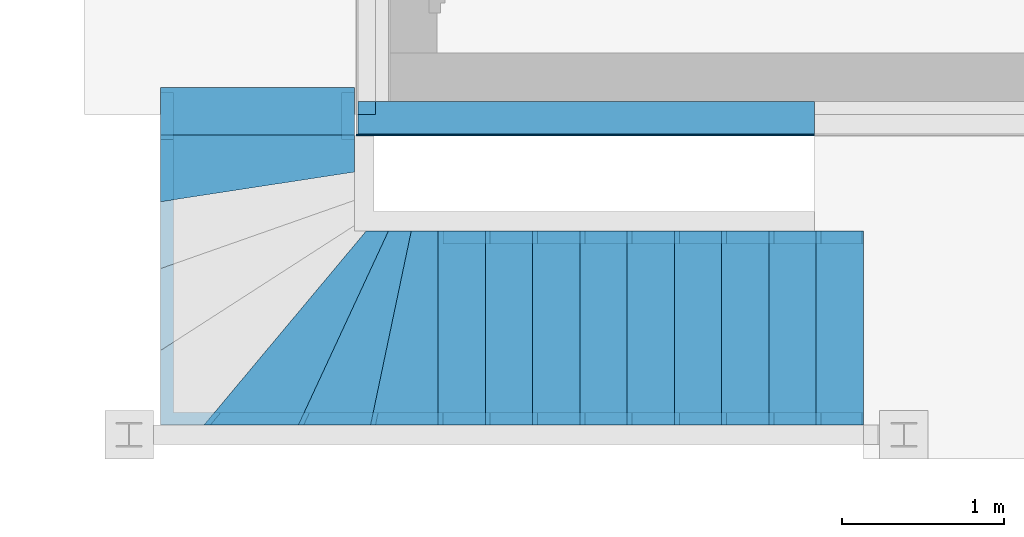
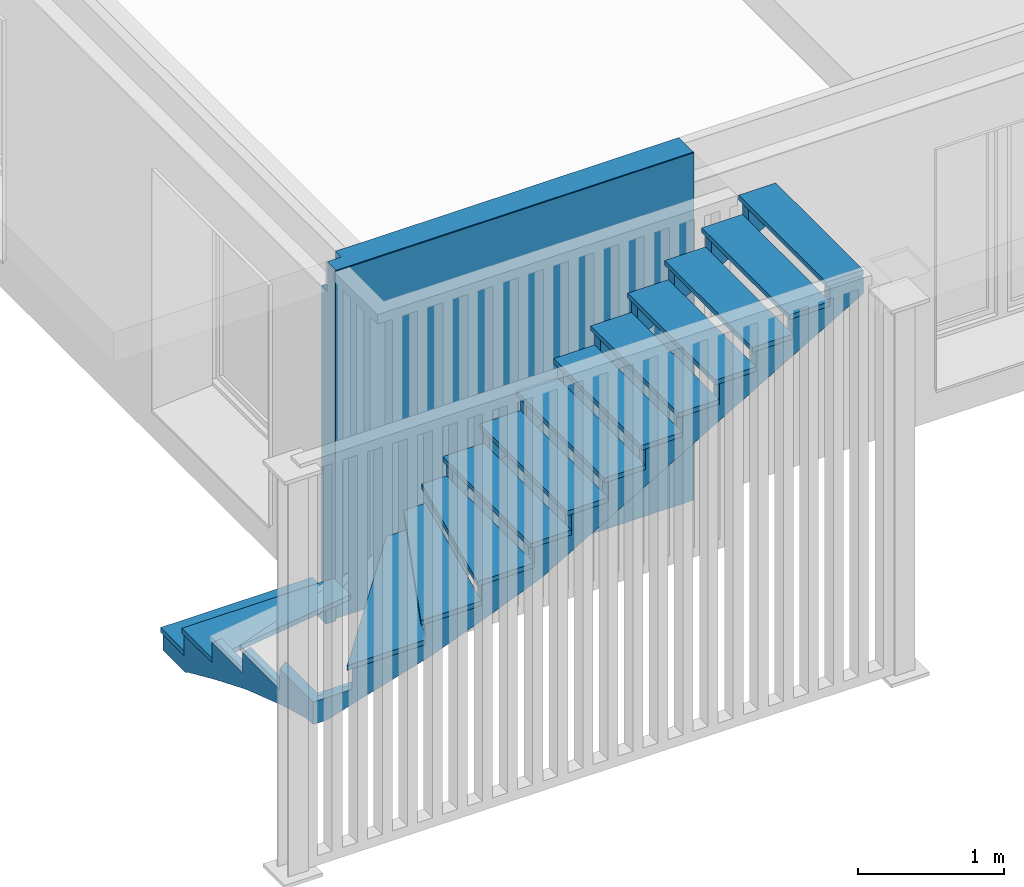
# One storey, part 11 of 20: 17 building element parts, 2 elements without a shape of their own.
"""IFC4 building model written with IfcOpenShell, lengths in millimetres."""

import ifcopenshell
import ifcopenshell.guid

model = None  # the IFC model being written
_history = None  # IfcOwnerHistory: only IFC2X3 demands one
_inside = {}  # id of a spatial element -> (the spatial element, [elements in it])
_under = {}  # id of a project, library or spatial element -> (it, [spatial elements below it])
_declared = {}  # id of a project -> (the project, [libraries it declares])
_typed = {}  # id of a type object -> (the type object, [elements of that type])
_made_of = {}  # id of a material, layer set ... -> (it, [elements and type objects made of it])


def new_model(schema):
    """Start an empty IFC model of exactly this schema.

    Asked for "IFC4X3", IfcOpenShell would pick the latest addendum, in which some entities
    have other attributes; the version numbers below select the first issue.
    IFC2X3 requires an IfcOwnerHistory on every rooted entity: one is made here for all.
    """
    global model, _history
    if schema == "IFC4X3":
        model = ifcopenshell.file(schema_version=(4, 3, 0, 0))
    else:
        model = ifcopenshell.file(schema=schema)
    _inside.clear()
    _under.clear()
    _declared.clear()
    _typed.clear()
    _made_of.clear()
    _history = None
    if model.schema == "IFC2X3":
        org = make("IfcOrganization", Name="unknown")
        user = make(
            "IfcPersonAndOrganization",
            ThePerson=make("IfcPerson", FamilyName="unknown"),
            TheOrganization=org,
        )
        app = make(
            "IfcApplication",
            ApplicationDeveloper=org,
            Version="unknown",
            ApplicationFullName="unknown",
            ApplicationIdentifier="unknown",
        )
        _history = make(
            "IfcOwnerHistory",
            OwningUser=user,
            OwningApplication=app,
            ChangeAction="ADDED",
            CreationDate=0,
        )
    return model


def make(cls, **values):
    """One entity of the class cls with the attributes given. An attribute that is None is left unset."""
    return model.create_entity(
        cls, **{name: value for name, value in values.items() if value is not None}
    )


def entity(cls, *values):
    """Any entity or typed value of the class cls, its attributes in the order of the schema. None: left unset."""
    e = model.create_entity(cls)
    for i, value in enumerate(values):
        if value is not None:
            e[i] = value
    return e


def rooted(cls, **values):
    """An entity with a GlobalId (a new one), such as an element, a storey or a relation."""
    return make(cls, GlobalId=ifcopenshell.guid.new(), OwnerHistory=_history, **values)


def si_unit(unit_type, name, prefix=None):
    """IfcSIUnit, for example si_unit("LENGTHUNIT", "METRE", prefix="MILLI")."""
    return make("IfcSIUnit", UnitType=unit_type, Prefix=prefix, Name=name)


def converted_unit(unit_type, name, factor, base, dimensions=None, offset=None):
    """IfcConversionBasedUnit, such as the inch: factor (a typed value) times the base unit."""
    return make(
        "IfcConversionBasedUnit"
        if offset is None
        else "IfcConversionBasedUnitWithOffset",
        ConversionOffset=offset,
        Dimensions=None
        if dimensions is None
        else entity("IfcDimensionalExponents", *dimensions),
        UnitType=unit_type,
        Name=name,
        ConversionFactor=make(
            "IfcMeasureWithUnit", ValueComponent=factor, UnitComponent=base
        ),
    )


def derived_unit(unit_type, elements):
    """IfcDerivedUnit: a product of units, each with its exponent."""
    return make(
        "IfcDerivedUnit",
        Elements=[
            make("IfcDerivedUnitElement", Unit=unit, Exponent=power)
            for unit, power in elements
        ],
        UnitType=unit_type,
    )


def assignment(units):
    """IfcUnitAssignment: the units of a project."""
    return None if units is None else make("IfcUnitAssignment", Units=units)


def point(xyz):
    """IfcCartesianPoint."""
    return None if xyz is None else make("IfcCartesianPoint", Coordinates=xyz)


def direction(xyz):
    """IfcDirection."""
    return None if xyz is None else make("IfcDirection", DirectionRatios=xyz)


def frame(location, z_axis=None, x_axis=None):
    """IfcAxis2Placement3D, a coordinate frame: its origin and axes. An axis left out is left unset."""
    return make(
        "IfcAxis2Placement3D",
        Location=point(location),
        Axis=direction(z_axis),
        RefDirection=direction(x_axis),
    )


def origin_with_axes():
    """The frame at (0, 0, 0) with the z axis (0, 0, 1) and the x axis (1, 0, 0) written out."""
    return frame((0.0, 0.0, 0.0), z_axis=(0.0, 0.0, 1.0), x_axis=(1.0, 0.0, 0.0))


def place(relative_to, where):
    """IfcLocalPlacement: puts the frame where relative to a parent placement (None: the world)."""
    return make(
        "IfcLocalPlacement", PlacementRelTo=relative_to, RelativePlacement=where
    )


def context(
    kind, dimensions, precision=None, world=None, true_north=None, identifier=None
):
    """IfcGeometricRepresentationContext, for example the 3D "Model" context."""
    return make(
        "IfcGeometricRepresentationContext",
        ContextIdentifier=identifier,
        ContextType=kind,
        CoordinateSpaceDimension=dimensions,
        Precision=precision,
        WorldCoordinateSystem=world,
        TrueNorth=true_north,
    )


def subcontext(parent, identifier, kind, view, scale=None):
    """IfcGeometricRepresentationSubContext, for example "Body" below "Model"."""
    return make(
        "IfcGeometricRepresentationSubContext",
        ContextIdentifier=identifier,
        ContextType=kind,
        ParentContext=parent,
        TargetScale=scale,
        TargetView=view,
    )


def project(units=None, contexts=None):
    """IfcProject with its units and contexts."""
    return rooted(
        "IfcProject",
        Name="project",
        RepresentationContexts=contexts,
        UnitsInContext=assignment(units),
    )


def spatial(cls, under=None, at=None, **own):
    """A site, building, storey or space (cls), placed at a placement, below another one or the project."""
    s = rooted(cls, ObjectPlacement=at, **own)
    if under is not None:
        _under.setdefault(under.id(), (under, []))[1].append(s)
    return s


def point_list(points):
    """IfcCartesianPointList2D or 3D."""
    cls = (
        "IfcCartesianPointList2D" if len(points[0]) == 2 else "IfcCartesianPointList3D"
    )
    return make(cls, CoordList=points)


def polygons(points, faces, closed=None, point_numbers=None):
    """IfcPolygonalFaceSet: a face is its outer loop, then its inner loops; points numbered from 1."""
    made = []
    for loops in faces:
        if len(loops) == 1:
            made.append(make("IfcIndexedPolygonalFace", CoordIndex=loops[0]))
        else:
            made.append(
                make(
                    "IfcIndexedPolygonalFaceWithVoids",
                    CoordIndex=loops[0],
                    InnerCoordIndices=loops[1:],
                )
            )
    return make(
        "IfcPolygonalFaceSet",
        Coordinates=point_list(points),
        Closed=closed,
        Faces=made,
        PnIndex=point_numbers,
    )


def shape(context_of_items, identifier, shape_type, items):
    """IfcShapeRepresentation: the items that make up one representation, for example the "Body"."""
    return make(
        "IfcShapeRepresentation",
        ContextOfItems=context_of_items,
        RepresentationIdentifier=identifier,
        RepresentationType=shape_type,
        Items=items,
    )


def material(Name=None, Category=None):
    """IfcMaterial."""
    return make("IfcMaterial", Name=Name, Category=Category)


def made_of(thing, what):
    """Note that an element or type object is made of a material, layer set ...; save() writes the relation."""
    if what is not None:
        _made_of.setdefault(what.id(), (what, []))[1].append(thing)
    return thing


def type_object(cls, material=None, **own):
    """A type object (cls), such as IfcWallType, which elements share."""
    return made_of(rooted(cls, **own), material)


def element(
    cls,
    number,
    at=None,
    inside=None,
    cuts=None,
    type_object=None,
    material=None,
    context=None,
    identifier="Body",
    shape_type=None,
    held_by="IfcProductDefinitionShape",
    body=None,
    shapes=None,
    **own,
):
    """One element of the class cls, such as IfcWall. Its Tag is "e" and its number.

    at: its placement. inside: the storey or other place that contains it. cuts: it is an
    opening in that element (IfcRelVoidsElement). A single representation is given by context,
    identifier, shape_type and body (its items); several are given by shapes. held_by: the class
    of the entity that holds the representations. save() writes the other relations.
    """
    e = rooted(cls, Tag="e%d" % number, ObjectPlacement=at, **own)
    if body is not None:
        shapes = [shape(context, identifier, shape_type, body)]
    if shapes is not None:
        e.Representation = make(held_by, Representations=shapes)
    if inside is not None:
        _inside.setdefault(inside.id(), (inside, []))[1].append(e)
    if cuts is not None:
        rooted(
            "IfcRelVoidsElement", RelatingBuildingElement=cuts, RelatedOpeningElement=e
        )
    if type_object is not None:
        _typed.setdefault(type_object.id(), (type_object, []))[1].append(e)
    return made_of(e, material)


def aggregate(whole, parts):
    """IfcRelAggregates: a whole, such as a stair, and the parts it consists of."""
    return rooted("IfcRelAggregates", RelatingObject=whole, RelatedObjects=parts)


def save(model, path):
    """Write the relations noted so far, then the file.

    IfcRelAggregates (storeys below a building ...), IfcRelContainedInSpatialStructure (elements
    in a storey), IfcRelDefinesByType, IfcRelAssociatesMaterial and IfcRelDeclares: one each for
    every whole, place, type object, material and project.
    """
    for whole, parts in _under.values():
        aggregate(whole, parts)
    for where, things in _inside.values():
        rooted(
            "IfcRelContainedInSpatialStructure",
            RelatedElements=things,
            RelatingStructure=where,
        )
    for kind, things in _typed.values():
        rooted("IfcRelDefinesByType", RelatedObjects=things, RelatingType=kind)
    for what, things in _made_of.values():
        rooted("IfcRelAssociatesMaterial", RelatedObjects=things, RelatingMaterial=what)
    for by, libraries in _declared.values():
        rooted("IfcRelDeclares", RelatingContext=by, RelatedDefinitions=libraries)
    model.write(path)


model = new_model("IFC4")

# Units and contexts
model_context = context("Model", 3, precision=0.01, world=origin_with_axes(), true_north=direction((0.0, 1.0)))
body_context = subcontext(model_context, "Body", "Model", "MODEL_VIEW")
ifc_project = project(units=[si_unit("LENGTHUNIT", "METRE", prefix="MILLI"), si_unit("AREAUNIT", "SQUARE_METRE"), si_unit("VOLUMEUNIT", "CUBIC_METRE"), converted_unit("PLANEANGLEUNIT", "DEGREE", entity("IfcPlaneAngleMeasure", 0.0174532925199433), si_unit("PLANEANGLEUNIT", "RADIAN"), dimensions=[0, 0, 0, 0, 0, 0, 0]), converted_unit("TIMEUNIT", "Year", entity("IfcTimeMeasure", 31557600.0), si_unit("TIMEUNIT", "SECOND"), dimensions=[0, 0, 1, 0, 0, 0, 0]), si_unit("MASSUNIT", "GRAM", prefix="KILO"), si_unit("THERMODYNAMICTEMPERATUREUNIT", "DEGREE_CELSIUS"), si_unit("LUMINOUSINTENSITYUNIT", "LUMEN"), si_unit("ENERGYUNIT", "JOULE", prefix="MEGA"), derived_unit("THERMALCONDUCTANCEUNIT", [(si_unit("POWERUNIT", "WATT"), 1), (si_unit("LENGTHUNIT", "METRE"), -1), (si_unit("THERMODYNAMICTEMPERATUREUNIT", "KELVIN"), -1)]), derived_unit("SPECIFICHEATCAPACITYUNIT", [(si_unit("ENERGYUNIT", "JOULE"), 1), (si_unit("MASSUNIT", "GRAM", prefix="KILO"), -1), (si_unit("THERMODYNAMICTEMPERATUREUNIT", "KELVIN"), -1)]), derived_unit("MASSDENSITYUNIT", [(si_unit("MASSUNIT", "GRAM", prefix="KILO"), 1), (si_unit("VOLUMEUNIT", "CUBIC_METRE"), -1)])], contexts=[model_context])

# Site, building, storey
site_placement = place(None, origin_with_axes())
site = spatial("IfcSite", under=ifc_project, at=site_placement, Name="Gelände", CompositionType="ELEMENT")
building_placement = place(site_placement, origin_with_axes())
building = spatial("IfcBuilding", under=site, at=building_placement, Name="Gebäude", CompositionType="ELEMENT")
storey_placement = place(building_placement, frame((0.0, 0.0, 5.198845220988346e-05), z_axis=(0.0, 0.0, 1.0), x_axis=(1.0, 0.0, 0.0)))
storey = spatial("IfcBuildingStorey", under=building, at=storey_placement, Name="EG", CompositionType="ELEMENT", Elevation=0.0)

# Curtain wall, building element parts
curtain_wall_type = type_object("IfcCurtainWallType", Name="Fassade Typ 01 - Kompaktfassade 210", PredefinedType="NOTDEFINED")
curtain_wall_placement = place(storey_placement, frame((-7060.766624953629, 22947.59674077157, 0.0), z_axis=(0.0, 0.0, 1.0), x_axis=(1.0, 0.0, 0.0)))
curtain_wall = element("IfcCurtainWall", 1, at=curtain_wall_placement, inside=storey, type_object=curtain_wall_type, Name="Wand-014", PredefinedType="NOTDEFINED")
ifc_material_1 = material(Name="Zementputz Aussen")
building_element_part_1_placement = place(curtain_wall_placement, origin_with_axes())
building_element_part_1 = element("IfcBuildingElementPart", 2, at=building_element_part_1_placement, material=ifc_material_1, Name="Zementputz Aussen", PredefinedType="NOTDEFINED", context=body_context, shape_type="Tessellation", body=[
    polygons([(2832.520022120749, 10.00000000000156, 0.0), (2832.520022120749, 0.0, 0.0), (0.0, 0.0, 0.0), (-0.01131221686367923, 10.00000000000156, 0.0), (2832.520022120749, 10.00000000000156, 2899.999948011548), (2832.520022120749, 0.0, 2899.999948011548), (0.0, 0.0, 2899.999948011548), (-0.01131221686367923, 10.00000000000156, 2899.999948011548)], [[[1, 2, 3, 4]], [[1, 5, 6, 2]], [[2, 6, 7, 3]], [[4, 3, 7, 8]], [[5, 1, 4, 8]], [[6, 5, 8, 7]]], closed=True),
])
ifc_material_2 = material(Name="Dämmung Aussen")
building_element_part_2_placement = place(curtain_wall_placement, origin_with_axes())
building_element_part_2 = element("IfcBuildingElementPart", 3, at=building_element_part_2_placement, material=ifc_material_2, Name="Dämmung Aussen", PredefinedType="NOTDEFINED", context=body_context, shape_type="Tessellation", body=[
    polygons([(9.762449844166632, 210.0000000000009, 0.0), (9.762449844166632, 210.0000000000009, 2649.999948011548), (119.7624434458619, 210.0000000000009, 2649.999948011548), (119.7624434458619, 210.0000000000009, 2899.999948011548), (2832.520022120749, 210.0000000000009, 2899.999948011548), (2832.520022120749, 210.0000000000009, 0.0), (9.852947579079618, 130.0000000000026, 2899.999948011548), (9.852947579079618, 130.0000000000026, 2649.999948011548), (9.988694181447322, 10.00000000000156, 0.0), (9.988694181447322, 10.00000000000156, 2899.999948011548), (119.7624434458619, 130.0000000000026, 2649.999948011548), (119.7624434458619, 130.0000000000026, 2899.999948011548), (2832.520022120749, 10.00000000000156, 2899.999948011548), (2832.520022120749, 10.00000000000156, 0.0)], [[[1, 2, 3, 4, 5, 6]], [[7, 8, 2, 1, 9, 10]], [[11, 3, 2, 8]], [[11, 12, 4, 3]], [[4, 12, 7, 10, 13, 5]], [[13, 14, 6, 5]], [[9, 1, 6, 14]], [[8, 7, 12, 11]], [[10, 9, 14, 13]]], closed=True),
])
aggregate(curtain_wall, [building_element_part_1, building_element_part_2])

# Stair, building element parts
stair_type = type_object("IfcStairType", Name="Treppentyp 01 - Metall - Holz", PredefinedType="NOTDEFINED")
stair_placement = place(storey_placement, frame((-8346.588154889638, 21322.51054564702, 0.0), z_axis=(0.0, 0.0, 1.0), x_axis=(0.0, 1.0, 0.0)))
stair = element("IfcStair", 4, at=stair_placement, inside=storey, type_object=stair_type, Name="Treppe-001", PredefinedType="NOTDEFINED")
ifc_material_3 = material(Name="Stahl")
building_element_part_3_placement = place(stair_placement, origin_with_axes())
building_element_part_3 = element("IfcBuildingElementPart", 5, at=building_element_part_3_placement, material=ifc_material_3, Name="Stahl", PredefinedType="NOTDEFINED", context=body_context, shape_type="Tessellation", body=[
    polygons([(1600.669169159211, -1275.583973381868, 0.0), (1600.669169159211, -1275.583973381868, 130.5882322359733), (1600.669169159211, -1195.583973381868, 130.5882322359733), (1600.669169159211, -1195.583973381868, 0.0), (1892.84816920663, -1275.583973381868, 0.0), (1892.84816920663, -1275.583973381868, 130.5882322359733), (1892.84816920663, -1195.583973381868, 130.5882322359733), (1892.84816920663, -1195.583973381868, 0.0)], [[[1, 2, 3, 4]], [[5, 6, 2, 1]], [[6, 7, 3, 2]], [[4, 3, 7, 8]], [[5, 1, 4, 8]], [[8, 7, 6, 5]]], closed=True),
    polygons([(955.0861951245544, -4421.383973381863, 2842.484496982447), (955.0861951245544, -4411.157605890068, 2859.999948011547), (955.0861951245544, -4159.204973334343, 2859.999948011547), (955.0861951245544, -4159.204973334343, 2689.411715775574), (955.0861951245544, -3867.025973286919, 2689.411715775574), (955.0861951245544, -3867.025973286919, 2518.8234835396), (955.0861951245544, -3574.846973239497, 2518.8234835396), (955.0861951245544, -3574.846973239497, 2348.235251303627), (955.0861951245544, -3282.667973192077, 2348.235251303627), (955.0861951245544, -3282.667973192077, 2177.647019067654), (955.0861951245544, -2990.488973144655, 2177.647019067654), (955.0861951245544, -2990.488973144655, 2007.05878683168), (955.0861951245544, -2698.309973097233, 2007.05878683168), (955.0861951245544, -2698.309973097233, 1836.470554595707), (955.0861951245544, -2406.130973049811, 1836.470554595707), (955.0861951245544, -2406.130973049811, 1665.882322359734), (955.0861951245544, -2113.95197300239, 1665.882322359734), (955.0861951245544, -2113.95197300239, 1495.29409012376), (955.0861951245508, -1821.772972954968, 1495.29409012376), (955.0861951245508, -1821.772972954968, 1185.750266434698), (955.0861951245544, -4421.383973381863, 2703.528905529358), (1035.086195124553, -4421.383973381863, 2842.484496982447), (1035.086195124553, -4411.157605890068, 2859.999948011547), (1035.086195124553, -4159.204973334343, 2859.999948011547), (1035.086195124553, -4159.204973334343, 2689.411715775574), (1035.086195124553, -3867.025973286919, 2689.411715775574), (1035.086195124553, -3867.025973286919, 2518.8234835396), (1035.086195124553, -3574.846973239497, 2518.8234835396), (1035.086195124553, -3574.846973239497, 2348.235251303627), (1035.086195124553, -3282.667973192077, 2348.235251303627), (1035.086195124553, -3282.667973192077, 2177.647019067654), (1035.086195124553, -2990.488973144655, 2177.647019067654), (1035.086195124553, -2990.488973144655, 2007.05878683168), (1035.086195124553, -2698.309973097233, 2007.05878683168), (1035.086195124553, -2698.309973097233, 1836.470554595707), (1035.086195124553, -2406.130973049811, 1836.470554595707), (1035.086195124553, -2406.130973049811, 1665.882322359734), (1035.086195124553, -2113.95197300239, 1665.882322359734), (1035.086195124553, -2113.95197300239, 1495.29409012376), (1035.086195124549, -1821.772972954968, 1495.29409012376), (1035.086195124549, -1821.772972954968, 1185.750266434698), (1035.086195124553, -4421.383973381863, 2703.528905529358)], [[[1, 2, 3, 4, 5, 6, 7, 8, 9, 10, 11, 12, 13, 14, 15, 16, 17, 18, 19, 20, 21]], [[22, 23, 2, 1]], [[23, 24, 3, 2]], [[4, 3, 24, 25]], [[26, 5, 4, 25]], [[5, 26, 27, 6]], [[7, 6, 27, 28]], [[28, 29, 8, 7]], [[8, 29, 30, 9]], [[31, 10, 9, 30]], [[31, 32, 11, 10]], [[12, 11, 32, 33]], [[34, 13, 12, 33]], [[13, 34, 35, 14]], [[15, 14, 35, 36]], [[36, 37, 16, 15]], [[16, 37, 38, 17]], [[39, 18, 17, 38]], [[39, 40, 19, 18]], [[20, 19, 40, 41]], [[42, 21, 20, 41]], [[22, 1, 21, 42]], [[25, 24, 23, 22, 42, 41, 40, 39, 38, 37, 36, 35, 34, 33, 32, 31, 30, 29, 28, 27, 26]]], closed=True),
    polygons([(-164.9138048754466, -4421.383973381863, 2842.484496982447), (-164.9138048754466, -4411.157605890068, 2859.999948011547), (-164.9138048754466, -4159.204973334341, 2859.999948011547), (-164.9138048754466, -4159.204973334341, 2689.411715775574), (-164.9138048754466, -3867.02597328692, 2689.411715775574), (-164.9138048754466, -3867.02597328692, 2518.8234835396), (-164.9138048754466, -3574.846973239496, 2518.8234835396), (-164.9138048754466, -3574.846973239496, 2348.235251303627), (-164.9138048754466, -3282.667973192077, 2348.235251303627), (-164.9138048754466, -3282.667973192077, 2177.647019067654), (-164.9138048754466, -2990.488973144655, 2177.647019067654), (-164.9138048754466, -2990.488973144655, 2007.05878683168), (-164.9138048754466, -2698.309973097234, 2007.05878683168), (-164.9138048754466, -2698.309973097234, 1836.470554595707), (-164.9138048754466, -2406.130973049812, 1836.470554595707), (-164.9138048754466, -2406.130973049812, 1665.882322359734), (-164.9138048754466, -2113.95197300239, 1665.882322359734), (-164.9138048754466, -2113.95197300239, 1495.29409012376), (-164.9138048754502, -1821.772972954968, 1495.29409012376), (-164.9138048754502, -1821.772972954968, 1324.705857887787), (-164.9138048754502, -1404.317911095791, 1324.705857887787), (-164.9138048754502, -1404.317911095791, 1154.117625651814), (-164.9138048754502, -960.156704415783, 1154.117625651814), (-164.9138048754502, -960.1567044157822, 983.5293934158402), (-164.9138048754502, -382.2756245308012, 983.5293934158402), (-164.9138048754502, -382.2756245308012, 812.9411611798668), (-164.9138048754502, -75.58397338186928, 812.9411611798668), (-164.9138048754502, -75.58397338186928, 624.8631714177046), (-164.9138048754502, -188.5518993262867, 624.8631714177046), (-164.9138048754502, -417.5746620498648, 698.2420497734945), (-164.9138048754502, -998.7169715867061, 869.7929842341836), (-164.9138048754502, -1448.531388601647, 1042.55243525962), (-164.9138048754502, -1874.983859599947, 1216.817355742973), (-164.9138048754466, -4421.383973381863, 2703.528905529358), (-84.91380487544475, -4421.383973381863, 2842.484496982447), (-84.91380487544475, -4411.157605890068, 2859.999948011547), (-84.91380487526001, -4159.204973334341, 2859.999948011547), (-84.91380487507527, -4159.204973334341, 2689.411715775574), (-84.91380487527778, -3867.02597328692, 2689.411715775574), (-84.91380487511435, -3867.02597328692, 2518.8234835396), (-84.91380487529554, -3574.846973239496, 2518.8234835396), (-84.91380487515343, -3574.846973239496, 2348.235251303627), (-84.91380487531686, -3282.667973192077, 2348.235251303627), (-84.91380487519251, -3282.667973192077, 2177.647019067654), (-84.91380487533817, -2990.488973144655, 2177.647019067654), (-84.91380487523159, -2990.488973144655, 2007.05878683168), (-84.91380487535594, -2698.309973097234, 2007.05878683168), (-84.91380487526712, -2698.309973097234, 1836.470554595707), (-84.9138048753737, -2406.130973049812, 1836.470554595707), (-84.9138048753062, -2406.130973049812, 1665.882322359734), (-84.91380487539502, -2113.951973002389, 1665.882322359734), (-84.91380487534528, -2113.951973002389, 1495.29409012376), (-84.91380487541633, -1821.772972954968, 1495.29409012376), (-84.91380487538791, -1821.772972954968, 1324.705857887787), (-84.91380487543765, -1421.108538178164, 1324.705857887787), (-84.91380487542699, -1421.108538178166, 1154.117625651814), (-84.91380487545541, -997.2976615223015, 1154.117625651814), (-84.91380487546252, -997.2976615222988, 983.5293934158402), (-84.91380487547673, -449.1503085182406, 983.5293934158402), (-84.9138048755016, -449.1503085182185, 812.9411611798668), (348.4428452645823, -155.5839733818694, 812.9411611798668), (296.8953001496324, -75.58397338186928, 812.9411611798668), (-84.9138048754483, -155.5839733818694, 812.9411611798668), (296.8953001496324, -75.58397338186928, 642.3529289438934), (803.36902356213, -75.58397338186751, 642.3529289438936), (803.36902356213, -75.58397338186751, 471.7646967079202), (1216.191990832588, -75.58397338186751, 471.7646967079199), (1216.191990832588, -75.58397338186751, 301.1764644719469), (1600.669169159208, -75.58397338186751, 301.1764644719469), (1600.669169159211, -75.58397338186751, 130.5882322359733), (1892.84816920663, -75.58397338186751, 130.5882322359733), (1892.84816920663, -75.58397338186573, 0.0), (1586.337778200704, -75.58397338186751, 0.0), (1545.915225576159, -75.58397338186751, 23.60064136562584), (1168.936320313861, -75.58397338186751, 190.8619735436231), (761.2558956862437, -75.58397338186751, 359.325185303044), (261.6017565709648, -75.58397338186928, 527.6164754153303), (-87.11909677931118, -75.58397338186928, 624.8631714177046), (-84.9138048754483, -155.5839733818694, 624.8631714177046), (-84.9138048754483, -188.5518993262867, 624.8631714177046), (-87.11909677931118, -155.5839733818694, 624.8631714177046), (-84.9138048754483, -417.5746620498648, 698.2420497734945), (-84.9138048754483, -998.7169715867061, 869.7929842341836), (-84.9138048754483, -1448.531388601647, 1042.55243525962), (-84.9138048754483, -1874.983859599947, 1216.817355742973), (-84.91380487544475, -4421.383973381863, 2703.528905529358), (348.4428452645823, -155.5839733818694, 642.3529289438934), (261.6017565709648, -155.5839733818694, 527.6164754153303), (761.2558956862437, -155.5839733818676, 359.325185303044), (1168.936320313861, -155.5839733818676, 190.8619735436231), (1545.915225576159, -155.5839733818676, 23.60064136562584), (1586.337778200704, -155.5839733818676, 0.0), (1892.84816920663, -155.5839733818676, 0.0), (1892.84816920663, -155.5839733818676, 130.5882322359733), (1600.669169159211, -155.5839733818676, 130.5882322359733), (1600.669169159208, -155.5839733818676, 301.1764644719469), (1228.451718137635, -155.5839733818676, 301.1764644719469), (1228.451718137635, -155.5839733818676, 471.7646967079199), (831.520871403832, -155.5839733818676, 471.7646967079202), (831.520871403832, -155.5839733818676, 642.3529289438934)], [[[1, 2, 3, 4, 5, 6, 7, 8, 9, 10, 11, 12, 13, 14, 15, 16, 17, 18, 19, 20, 21, 22, 23, 24, 25, 26, 27, 28, 29, 30, 31, 32, 33, 34]], [[35, 36, 2, 1]], [[36, 37, 3, 2]], [[4, 3, 37, 38]], [[39, 5, 4, 38]], [[5, 39, 40, 6]], [[7, 6, 40, 41]], [[41, 42, 8, 7]], [[8, 42, 43, 9]], [[44, 10, 9, 43]], [[44, 45, 11, 10]], [[12, 11, 45, 46]], [[47, 13, 12, 46]], [[13, 47, 48, 14]], [[15, 14, 48, 49]], [[49, 50, 16, 15]], [[16, 50, 51, 17]], [[52, 18, 17, 51]], [[52, 53, 19, 18]], [[20, 19, 53, 54]], [[55, 21, 20, 54]], [[21, 55, 56, 22]], [[23, 22, 56, 57]], [[57, 58, 24, 23]], [[24, 58, 59, 25]], [[60, 26, 25, 59]], [[61, 62, 27, 26, 60, 63]], [[28, 27, 62, 64, 65, 66, 67, 68, 69, 70, 71, 72, 73, 74, 75, 76, 77, 78]], [[79, 80, 29, 28, 78, 81]], [[82, 30, 29, 80]], [[83, 31, 30, 82]], [[84, 32, 31, 83]], [[85, 33, 32, 84]], [[86, 34, 33, 85]], [[35, 1, 34, 86]], [[38, 37, 36, 35, 86, 85, 84, 83, 82, 80, 79, 63, 60, 59, 58, 57, 56, 55, 54, 53, 52, 51, 50, 49, 48, 47, 46, 45, 44, 43, 42, 41, 40, 39]], [[64, 62, 61, 87]], [[87, 61, 63, 79, 81, 88, 89, 90, 91, 92, 93, 94, 95, 96, 97, 98, 99, 100]], [[65, 64, 87, 100]], [[65, 100, 99, 66]], [[66, 99, 98, 67]], [[98, 97, 68, 67]], [[97, 96, 69, 68]], [[95, 70, 69, 96]], [[94, 71, 70, 95]], [[72, 71, 94, 93]], [[92, 73, 72, 93]], [[91, 74, 73, 92]], [[90, 75, 74, 91]], [[89, 76, 75, 90]], [[88, 77, 76, 89]], [[81, 78, 77, 88]]], closed=True),
])
ifc_material_4 = material(Name="Massivholz")
building_element_part_4_placement = place(stair_placement, origin_with_axes())
building_element_part_4 = element("IfcBuildingElementPart", 6, at=building_element_part_4_placement, material=ifc_material_4, Name="Massivholz", PredefinedType="NOTDEFINED", context=body_context, shape_type="Tessellation", body=[
    polygons([(1922.848169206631, -1275.583973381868, 130.5882322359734), (1922.848169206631, -75.58397338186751, 130.5882322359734), (1922.848169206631, -75.58397338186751, 170.5882322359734), (1922.848169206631, -1275.583973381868, 170.5882322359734), (1600.669169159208, -1275.583973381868, 130.5882322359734), (1600.669169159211, -75.58397338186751, 130.5882322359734), (1600.669169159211, -75.58397338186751, 170.5882322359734), (1600.669169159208, -1275.583973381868, 170.5882322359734)], [[[1, 2, 3, 4]], [[1, 5, 6, 2]], [[2, 6, 7, 3]], [[4, 3, 7, 8]], [[5, 1, 4, 8]], [[6, 5, 8, 7]]], closed=True),
])
building_element_part_5_placement = place(stair_placement, origin_with_axes())
building_element_part_5 = element("IfcBuildingElementPart", 7, at=building_element_part_5_placement, material=ifc_material_4, Name="Massivholz", PredefinedType="NOTDEFINED", context=body_context, shape_type="Tessellation", body=[
    polygons([(1630.669169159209, -1275.583973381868, 301.1764644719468), (1630.669169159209, -75.58397338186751, 301.1764644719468), (1630.669169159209, -75.58397338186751, 341.1764644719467), (1630.669169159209, -1275.583973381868, 341.1764644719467), (1400.087904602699, -1275.583973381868, 301.1764644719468), (1216.191990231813, -75.58397338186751, 301.1764644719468), (1216.191990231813, -75.58397338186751, 341.1764644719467), (1400.087904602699, -1275.583973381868, 341.1764644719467)], [[[1, 2, 3, 4]], [[1, 5, 6, 2]], [[2, 6, 7, 3]], [[4, 3, 7, 8]], [[5, 1, 4, 8]], [[6, 5, 8, 7]]], closed=True),
])
building_element_part_6_placement = place(stair_placement, origin_with_axes())
building_element_part_6 = element("IfcBuildingElementPart", 8, at=building_element_part_6_placement, material=ifc_material_4, Name="Massivholz", PredefinedType="NOTDEFINED", context=body_context, shape_type="Tessellation", body=[
    polygons([(1035.086195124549, -1346.294651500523, 983.5293934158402), (-164.9138048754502, -343.1743916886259, 983.5293934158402), (-164.9138048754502, -343.1743916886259, 1023.52939341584), (1035.086195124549, -1346.294651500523, 1023.52939341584), (1035.086195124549, -1517.271061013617, 983.5293934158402), (-164.9138048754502, -960.1567093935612, 983.5293934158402), (-164.9138048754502, -960.1567093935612, 1023.52939341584), (1035.086195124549, -1517.271061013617, 1023.52939341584)], [[[1, 2, 3, 4]], [[1, 5, 6, 2]], [[2, 6, 7, 3]], [[4, 3, 7, 8]], [[5, 1, 4, 8]], [[6, 5, 8, 7]]], closed=True),
])
building_element_part_7_placement = place(stair_placement, origin_with_axes())
building_element_part_7 = element("IfcBuildingElementPart", 9, at=building_element_part_7_placement, material=ifc_material_4, Name="Massivholz", PredefinedType="NOTDEFINED", context=body_context, shape_type="Tessellation", body=[
    polygons([(1035.086195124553, -1625.523676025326, 1324.705857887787), (-164.9138048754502, -1373.664269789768, 1324.705857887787), (-164.9138048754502, -1373.664269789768, 1364.705857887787), (1035.086195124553, -1625.523676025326, 1364.705857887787), (1035.086195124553, -1821.772972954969, 1324.705857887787), (-164.9138048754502, -1821.772972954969, 1324.705857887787), (-164.9138048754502, -1821.772972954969, 1364.705857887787), (1035.086195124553, -1821.772972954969, 1364.705857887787)], [[[1, 2, 3, 4]], [[1, 5, 6, 2]], [[2, 6, 7, 3]], [[4, 3, 7, 8]], [[5, 1, 4, 8]], [[6, 5, 8, 7]]], closed=True),
])
building_element_part_8_placement = place(stair_placement, origin_with_axes())
building_element_part_8 = element("IfcBuildingElementPart", 10, at=building_element_part_8_placement, material=ifc_material_4, Name="Massivholz", PredefinedType="NOTDEFINED", context=body_context, shape_type="Tessellation", body=[
    polygons([(1035.086195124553, -1791.772972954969, 1495.29409012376), (-164.9138048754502, -1791.772972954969, 1495.29409012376), (-164.9138048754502, -1791.772972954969, 1535.29409012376), (1035.086195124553, -1791.772972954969, 1535.29409012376), (1035.086195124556, -2113.951973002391, 1495.29409012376), (-164.9138048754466, -2113.951973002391, 1495.29409012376), (-164.9138048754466, -2113.951973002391, 1535.29409012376), (1035.086195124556, -2113.951973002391, 1535.29409012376)], [[[1, 2, 3, 4]], [[1, 5, 6, 2]], [[2, 6, 7, 3]], [[4, 3, 7, 8]], [[5, 1, 4, 8]], [[6, 5, 8, 7]]], closed=True),
])
building_element_part_9_placement = place(stair_placement, origin_with_axes())
building_element_part_9 = element("IfcBuildingElementPart", 11, at=building_element_part_9_placement, material=ifc_material_4, Name="Massivholz", PredefinedType="NOTDEFINED", context=body_context, shape_type="Tessellation", body=[
    polygons([(1035.086195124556, -2083.95197300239, 1665.882322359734), (-164.9138048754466, -2083.95197300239, 1665.882322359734), (-164.9138048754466, -2083.95197300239, 1705.882322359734), (1035.086195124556, -2083.95197300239, 1705.882322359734), (1035.086195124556, -2406.130973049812, 1665.882322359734), (-164.9138048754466, -2406.130973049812, 1665.882322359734), (-164.9138048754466, -2406.130973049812, 1705.882322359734), (1035.086195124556, -2406.130973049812, 1705.882322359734)], [[[1, 2, 3, 4]], [[1, 5, 6, 2]], [[2, 6, 7, 3]], [[4, 3, 7, 8]], [[5, 1, 4, 8]], [[6, 5, 8, 7]]], closed=True),
])
building_element_part_10_placement = place(stair_placement, origin_with_axes())
building_element_part_10 = element("IfcBuildingElementPart", 12, at=building_element_part_10_placement, material=ifc_material_4, Name="Massivholz", PredefinedType="NOTDEFINED", context=body_context, shape_type="Tessellation", body=[
    polygons([(1035.086195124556, -2376.130973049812, 1836.470554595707), (-164.9138048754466, -2376.130973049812, 1836.470554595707), (-164.9138048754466, -2376.130973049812, 1876.470554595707), (1035.086195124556, -2376.130973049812, 1876.470554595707), (1035.086195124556, -2698.309973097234, 1836.470554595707), (-164.9138048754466, -2698.309973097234, 1836.470554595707), (-164.9138048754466, -2698.309973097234, 1876.470554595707), (1035.086195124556, -2698.309973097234, 1876.470554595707)], [[[1, 2, 3, 4]], [[1, 5, 6, 2]], [[2, 6, 7, 3]], [[4, 3, 7, 8]], [[5, 1, 4, 8]], [[6, 5, 8, 7]]], closed=True),
])
building_element_part_11_placement = place(stair_placement, origin_with_axes())
building_element_part_11 = element("IfcBuildingElementPart", 13, at=building_element_part_11_placement, material=ifc_material_4, Name="Massivholz", PredefinedType="NOTDEFINED", context=body_context, shape_type="Tessellation", body=[
    polygons([(1035.086195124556, -2668.309973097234, 2007.05878683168), (-164.9138048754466, -2668.309973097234, 2007.05878683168), (-164.9138048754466, -2668.309973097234, 2047.05878683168), (1035.086195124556, -2668.309973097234, 2047.05878683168), (1035.086195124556, -2990.488973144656, 2007.05878683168), (-164.9138048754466, -2990.488973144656, 2007.05878683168), (-164.9138048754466, -2990.488973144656, 2047.05878683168), (1035.086195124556, -2990.488973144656, 2047.05878683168)], [[[1, 2, 3, 4]], [[1, 5, 6, 2]], [[2, 6, 7, 3]], [[4, 3, 7, 8]], [[5, 1, 4, 8]], [[6, 5, 8, 7]]], closed=True),
])
building_element_part_12_placement = place(stair_placement, origin_with_axes())
building_element_part_12 = element("IfcBuildingElementPart", 14, at=building_element_part_12_placement, material=ifc_material_4, Name="Massivholz", PredefinedType="NOTDEFINED", context=body_context, shape_type="Tessellation", body=[
    polygons([(1035.086195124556, -2960.488973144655, 2177.647019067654), (-164.9138048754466, -2960.488973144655, 2177.647019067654), (-164.9138048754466, -2960.488973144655, 2217.647019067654), (1035.086195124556, -2960.488973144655, 2217.647019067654), (1035.086195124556, -3282.667973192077, 2177.647019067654), (-164.9138048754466, -3282.667973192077, 2177.647019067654), (-164.9138048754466, -3282.667973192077, 2217.647019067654), (1035.086195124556, -3282.667973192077, 2217.647019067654)], [[[1, 2, 3, 4]], [[1, 5, 6, 2]], [[2, 6, 7, 3]], [[4, 3, 7, 8]], [[5, 1, 4, 8]], [[6, 5, 8, 7]]], closed=True),
])
building_element_part_13_placement = place(stair_placement, origin_with_axes())
building_element_part_13 = element("IfcBuildingElementPart", 15, at=building_element_part_13_placement, material=ifc_material_4, Name="Massivholz", PredefinedType="NOTDEFINED", context=body_context, shape_type="Tessellation", body=[
    polygons([(1035.086195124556, -3252.667973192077, 2348.235251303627), (-164.9138048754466, -3252.667973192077, 2348.235251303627), (-164.9138048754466, -3252.667973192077, 2388.235251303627), (1035.086195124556, -3252.667973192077, 2388.235251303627), (1035.086195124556, -3574.8469732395, 2348.235251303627), (-164.9138048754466, -3574.846973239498, 2348.235251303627), (-164.9138048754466, -3574.846973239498, 2388.235251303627), (1035.086195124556, -3574.8469732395, 2388.235251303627)], [[[1, 2, 3, 4]], [[1, 5, 6, 2]], [[2, 6, 7, 3]], [[4, 3, 7, 8]], [[5, 1, 4, 8]], [[6, 5, 8, 7]]], closed=True),
])
building_element_part_14_placement = place(stair_placement, origin_with_axes())
building_element_part_14 = element("IfcBuildingElementPart", 16, at=building_element_part_14_placement, material=ifc_material_4, Name="Massivholz", PredefinedType="NOTDEFINED", context=body_context, shape_type="Tessellation", body=[
    polygons([(1035.086195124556, -3544.846973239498, 2518.8234835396), (-164.9138048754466, -3544.846973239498, 2518.8234835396), (-164.9138048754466, -3544.846973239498, 2558.8234835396), (1035.086195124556, -3544.846973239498, 2558.8234835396), (1035.086195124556, -3867.02597328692, 2518.8234835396), (-164.9138048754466, -3867.02597328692, 2518.8234835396), (-164.9138048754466, -3867.02597328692, 2558.8234835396), (1035.086195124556, -3867.02597328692, 2558.8234835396)], [[[1, 2, 3, 4]], [[1, 5, 6, 2]], [[2, 6, 7, 3]], [[4, 3, 7, 8]], [[5, 1, 4, 8]], [[6, 5, 8, 7]]], closed=True),
])
building_element_part_15_placement = place(stair_placement, origin_with_axes())
building_element_part_15 = element("IfcBuildingElementPart", 17, at=building_element_part_15_placement, material=ifc_material_4, Name="Massivholz", PredefinedType="NOTDEFINED", context=body_context, shape_type="Tessellation", body=[
    polygons([(1035.086195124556, -3837.02597328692, 2689.411715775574), (-164.9138048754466, -3837.02597328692, 2689.411715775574), (-164.9138048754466, -3837.02597328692, 2729.411715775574), (1035.086195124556, -3837.02597328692, 2729.411715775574), (1035.086195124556, -4159.204973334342, 2689.411715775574), (-164.9138048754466, -4159.204973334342, 2689.411715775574), (-164.9138048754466, -4159.204973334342, 2729.411715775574), (1035.086195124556, -4159.204973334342, 2729.411715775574)], [[[1, 2, 3, 4]], [[1, 5, 6, 2]], [[2, 6, 7, 3]], [[4, 3, 7, 8]], [[5, 1, 4, 8]], [[6, 5, 8, 7]]], closed=True),
])
building_element_part_16_placement = place(stair_placement, origin_with_axes())
building_element_part_16 = element("IfcBuildingElementPart", 18, at=building_element_part_16_placement, material=ifc_material_4, Name="Massivholz", PredefinedType="NOTDEFINED", context=body_context, shape_type="Tessellation", body=[
    polygons([(1035.086195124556, -4129.204973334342, 2859.999948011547), (-164.9138048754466, -4129.204973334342, 2859.999948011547), (-164.9138048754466, -4129.204973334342, 2899.999948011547), (1035.086195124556, -4129.204973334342, 2899.999948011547), (1035.086195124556, -4421.383973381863, 2859.999948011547), (-164.9138048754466, -4421.383973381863, 2859.999948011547), (-164.9138048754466, -4421.383973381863, 2899.999948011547), (1035.086195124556, -4421.383973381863, 2899.999948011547)], [[[1, 2, 3, 4]], [[1, 5, 6, 2]], [[2, 6, 7, 3]], [[4, 3, 7, 8]], [[5, 1, 4, 8]], [[6, 5, 8, 7]]], closed=True),
])
building_element_part_17_placement = place(stair_placement, origin_with_axes())
building_element_part_17 = element("IfcBuildingElementPart", 19, at=building_element_part_17_placement, material=ifc_material_4, Name="Massivholz", PredefinedType="NOTDEFINED", context=body_context, shape_type="Tessellation", body=[
    polygons([(1035.086195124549, -1484.195613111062, 1154.117625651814), (-164.9138048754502, -927.0812565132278, 1154.117625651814), (-164.9138048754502, -927.0812565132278, 1194.117625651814), (1035.086195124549, -1484.195613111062, 1194.117625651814), (1035.086195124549, -1656.177317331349, 1154.117625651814), (-164.9138048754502, -1404.317918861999, 1154.117625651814), (-164.9138048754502, -1404.317918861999, 1194.117625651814), (1035.086195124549, -1656.177317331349, 1194.117625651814)], [[[1, 2, 3, 4]], [[1, 5, 6, 2]], [[2, 6, 7, 3]], [[4, 3, 7, 8]], [[5, 1, 4, 8]], [[6, 5, 8, 7]]], closed=True),
])
aggregate(stair, [building_element_part_3, building_element_part_4, building_element_part_5, building_element_part_6, building_element_part_7, building_element_part_8, building_element_part_9, building_element_part_10, building_element_part_11, building_element_part_12, building_element_part_13, building_element_part_14, building_element_part_15, building_element_part_16, building_element_part_17])

save(model, "model.ifc")
